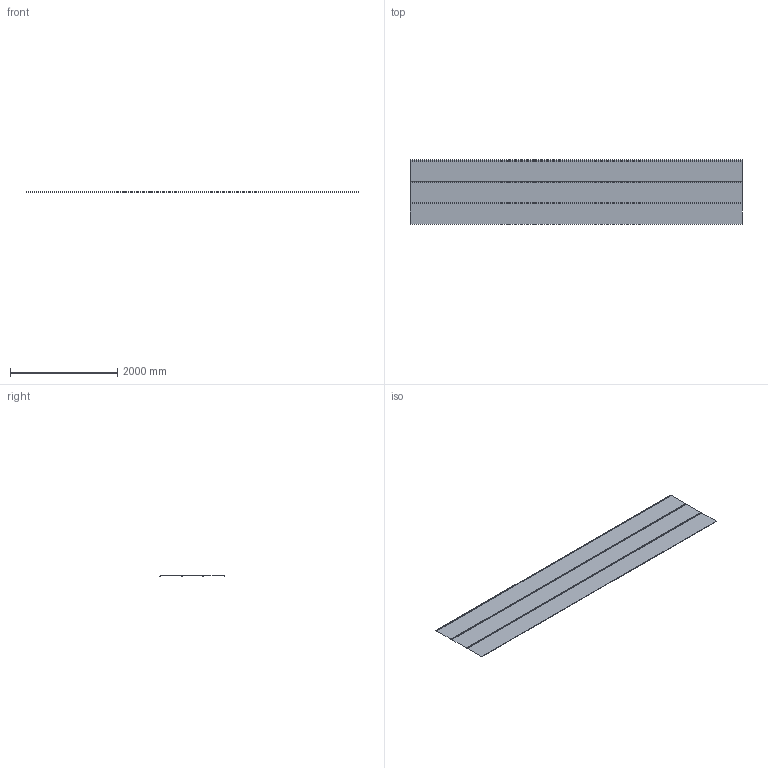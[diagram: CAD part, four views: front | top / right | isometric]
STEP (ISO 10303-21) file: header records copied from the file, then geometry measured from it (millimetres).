
FILE_DESCRIPTION(/* description */ (''),/* implementation_level */ '2;1');
FILE_NAME(/* name */ 'PREFA_~1',/* time_stamp */ '2020-07-21T15:26:36+02:00',/* author */ (''),/* organization */ (''),/* preprocessor_version */ 'ST-DEVELOPER v15',/* originating_system */ '',/* authorisation */ '');
FILE_SCHEMA (('AUTOMOTIVE_DESIGN'));
Length unit declared in the file: millimetre
Products named in the file (1): Document
Bounding box: 6200 x 1208.6 x 6.5 mm (x, y, z)
Surface area: 7795787.7 mm2 (no closed solid volume)
Topology: 0 solids, 3 shells, 24 faces, 75 edges, 54 vertices
Faces by surface type: plane 12, bspline 12
Entity records: 717 total; most frequent: CARTESIAN_POINT 314, ORIENTED_EDGE 96, EDGE_CURVE 75, VERTEX_POINT 54, B_SPLINE_CURVE_WITH_KNOTS 39, ADVANCED_FACE 24, FACE_OUTER_BOUND 24, EDGE_LOOP 24
